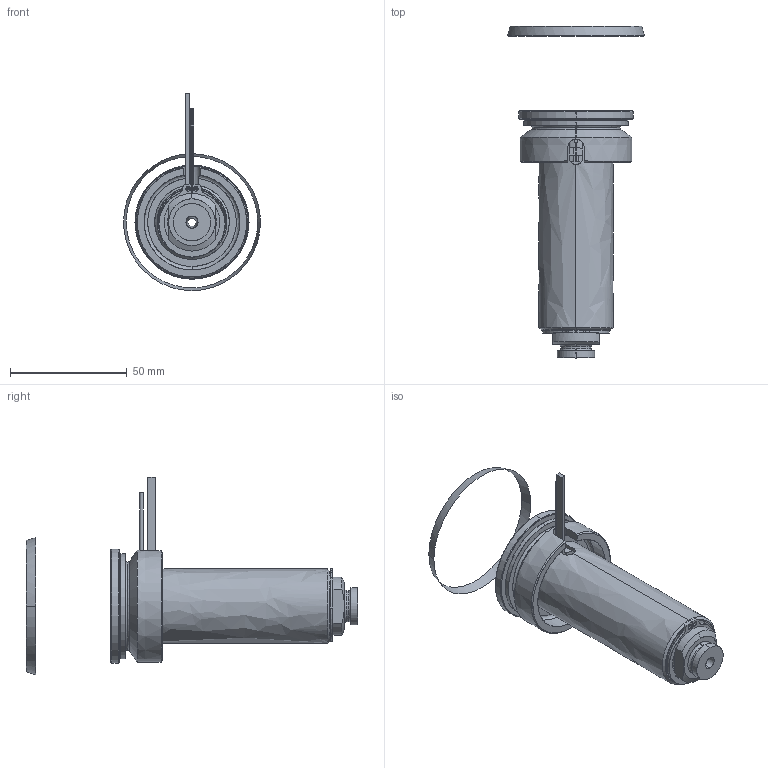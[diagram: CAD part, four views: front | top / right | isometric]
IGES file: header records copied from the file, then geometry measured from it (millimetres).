
Start section: SolidWorks IGES file using analytic representation for surfaces
Global section: file name: C:\Documents and Settings\ws-20\Desktop\TEMPORANEA\UGBE5002-S-A-5 [Ød-3.5 P-0 ØC-12].IGS; native system: SolidWorks 2012; preprocessor: SolidWorks 2012; author: ws-20; date: 120306.145247; units: millimetre
Bounding box: 58.79 x 142.44 x 84.69 mm (x, y, z)
Surface area: 41492.9 mm2 (no closed solid volume)
Topology: 0 solids, 0 shells, 114 faces, 2134 edges, 2134 vertices
Faces by surface type: revolution 70, bspline 44
